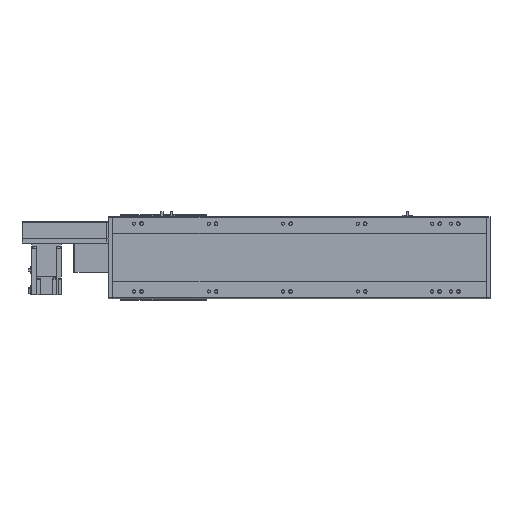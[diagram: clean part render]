
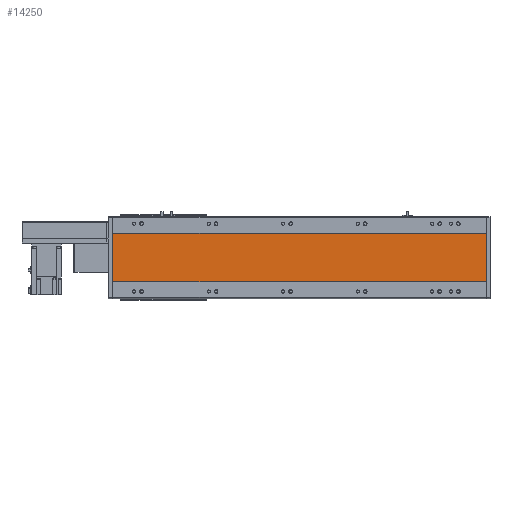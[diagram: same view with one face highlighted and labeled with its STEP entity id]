
A CAD part, front view. The second image highlights one B-rep face of the part: STEP entity #14250.
In plain terms, the highlighted planar face has unit normal (0, -1, 0).
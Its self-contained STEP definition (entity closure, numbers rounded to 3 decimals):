
#3157=ORIENTED_EDGE('',*,*,#6378,.T.);
#3158=ORIENTED_EDGE('',*,*,#6379,.F.);
#3159=ORIENTED_EDGE('',*,*,#6380,.F.);
#3160=ORIENTED_EDGE('',*,*,#6376,.T.);
#6376=EDGE_CURVE('',#8109,#8108,#9386,.T.);
#6378=EDGE_CURVE('',#8108,#8110,#9387,.T.);
#6379=EDGE_CURVE('',#8111,#8110,#9388,.T.);
#6380=EDGE_CURVE('',#8109,#8111,#9389,.T.);
#8108=VERTEX_POINT('',#23483);
#8109=VERTEX_POINT('',#23485);
#8110=VERTEX_POINT('',#23489);
#8111=VERTEX_POINT('',#23491);
#9386=LINE('',#23484,#10727);
#9387=LINE('',#23488,#10728);
#9388=LINE('',#23490,#10729);
#9389=LINE('',#23492,#10730);
#10727=VECTOR('',#18767,1000.);
#10728=VECTOR('',#18772,1000.);
#10729=VECTOR('',#18773,1000.);
#10730=VECTOR('',#18774,1000.);
#11674=EDGE_LOOP('',(#3157,#3158,#3159,#3160));
#12751=FACE_BOUND('',#11674,.T.);
#13597=PLANE('',#15538);
#14250=ADVANCED_FACE('',(#12751),#13597,.F.);
#15538=AXIS2_PLACEMENT_3D('',#23487,#18770,#18771);
#18767=DIRECTION('',(-1.,0.,0.));
#18770=DIRECTION('',(0.,1.,0.));
#18771=DIRECTION('',(0.,0.,1.));
#18772=DIRECTION('',(0.,0.,-1.));
#18773=DIRECTION('',(-1.,0.,0.));
#18774=DIRECTION('',(0.,0.,-1.));
#23483=CARTESIAN_POINT('',(12.,1.,64.294));
#23484=CARTESIAN_POINT('',(1014.,1.,64.294));
#23485=CARTESIAN_POINT('',(1014.,1.,64.294));
#23487=CARTESIAN_POINT('',(1014.,1.,64.294));
#23488=CARTESIAN_POINT('',(12.,1.,64.294));
#23489=CARTESIAN_POINT('',(12.,1.,-64.294));
#23490=CARTESIAN_POINT('',(1014.,1.,-64.294));
#23491=CARTESIAN_POINT('',(1014.,1.,-64.294));
#23492=CARTESIAN_POINT('',(1014.,1.,64.294));
